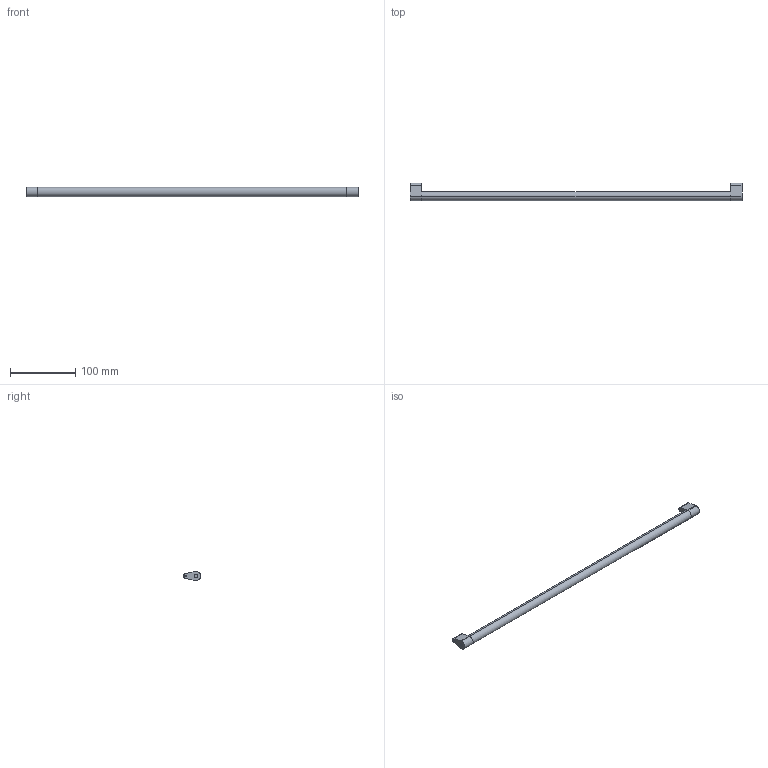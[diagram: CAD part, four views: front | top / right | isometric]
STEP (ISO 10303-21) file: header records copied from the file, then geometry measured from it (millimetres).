
FILE_DESCRIPTION (( 'STEP AP214' ), '1' );
FILE_NAME ('_Synchronisationseinheit DWD XP KAB600_S16.step', '2010-07-08T13:58:17', ( 'grass' ), ( '' ), 'SwSTEP 2.0', 'SolidWorks 2010', '' );
FILE_SCHEMA (( 'AUTOMOTIVE_DESIGN' ));
Length unit declared in the file: millimetre
Products named in the file (1): _Synchronisationseinheit DWD XP KAB600_S16
Bounding box: 507 x 26.5 x 14 mm (x, y, z)
Volume: 81733.4 mm3; surface area: 25146 mm2
Topology: 3 solids, 3 shells, 36 faces, 78 edges, 52 vertices
Faces by surface type: cylinder 18, plane 18
Entity records: 1050 total; most frequent: DIRECTION 188, CARTESIAN_POINT 167, ORIENTED_EDGE 156, EDGE_CURVE 78, AXIS2_PLACEMENT_3D 73, VERTEX_POINT 52, LINE 42, VECTOR 42
